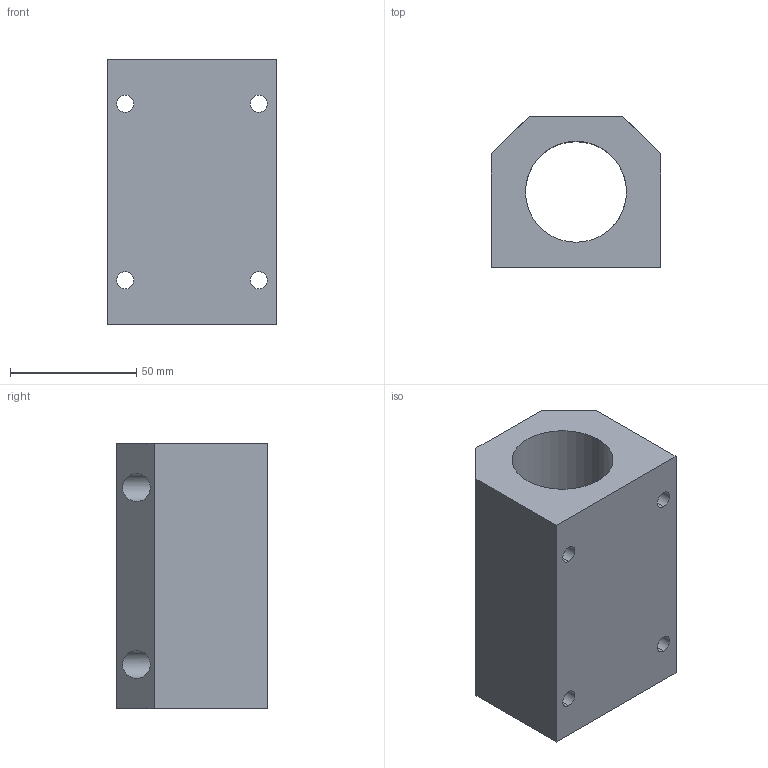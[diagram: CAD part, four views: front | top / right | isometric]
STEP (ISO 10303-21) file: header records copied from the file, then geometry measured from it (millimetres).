
FILE_DESCRIPTION (( 'STEP AP203' ), '1' );
FILE_NAME ('KTGC29-30.SLDPRT.step', '2020-05-14T11:29:07', ( '' ), ( '' ), 'SwSTEP 2.0', 'SolidWorks 2019', '' );
FILE_SCHEMA (( 'CONFIG_CONTROL_DESIGN' ));
Length unit declared in the file: millimetre
Products named in the file (2): KTGC29-30.SLDPRT
Bounding box: 67 x 60 x 105 mm (x, y, z)
Volume: 252991.3 mm3; surface area: 48605.7 mm2
Topology: 1 solids, 1 shells, 36 faces, 86 edges, 56 vertices
Faces by surface type: cylinder 22, plane 12, cone 2
Entity records: 1285 total; most frequent: CARTESIAN_POINT 262, DIRECTION 186, ORIENTED_EDGE 172, EDGE_CURVE 86, AXIS2_PLACEMENT_3D 72, VERTEX_POINT 56, EDGE_LOOP 52, LINE 42
